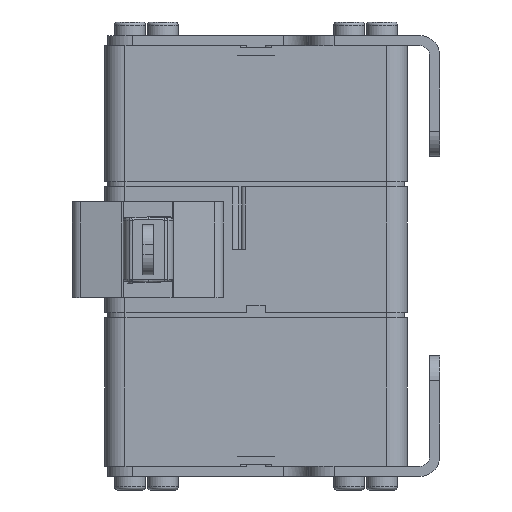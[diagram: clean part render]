
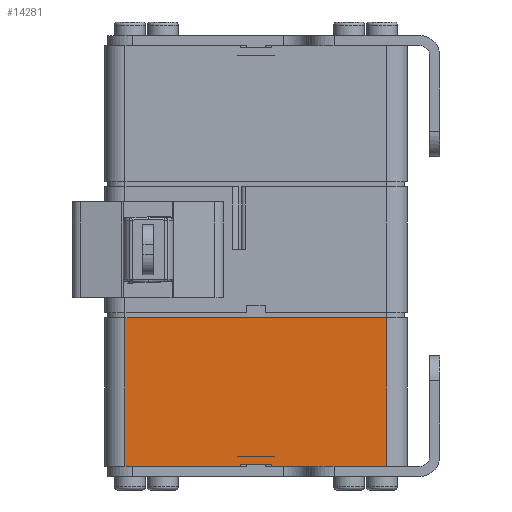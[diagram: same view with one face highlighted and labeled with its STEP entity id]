
A CAD part, front view. The second image highlights one B-rep face of the part: STEP entity #14281.
In plain terms, the highlighted planar face has unit normal (0, -1, 0).
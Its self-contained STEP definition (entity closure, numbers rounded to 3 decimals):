
#117=CARTESIAN_POINT('',(-26.,-30.,-28.));
#118=VERTEX_POINT('',#117);
#126=CARTESIAN_POINT('',(26.,-30.,-28.));
#127=VERTEX_POINT('',#126);
#128=CARTESIAN_POINT('',(26.,-30.,-28.));
#129=DIRECTION('',(-1.0,0.0,0.0));
#130=VECTOR('',#129,52.);
#131=LINE('',#128,#130);
#132=EDGE_CURVE('',#127,#118,#131,.T.);
#1722=CARTESIAN_POINT('',(3.,-30.,-57.5));
#1723=VERTEX_POINT('',#1722);
#1731=CARTESIAN_POINT('',(3.,-30.,-57.1));
#1732=VERTEX_POINT('',#1731);
#1733=CARTESIAN_POINT('',(3.,-30.,-57.5));
#1734=DIRECTION('',(0.0,0.0,1.0));
#1735=VECTOR('',#1734,0.4);
#1736=LINE('',#1733,#1735);
#1737=EDGE_CURVE('',#1723,#1732,#1736,.T.);
#1945=CARTESIAN_POINT('',(-3.,-30.,-57.1));
#1946=VERTEX_POINT('',#1945);
#1947=CARTESIAN_POINT('',(-3.,-30.,-57.1));
#1948=DIRECTION('',(1.0,0.0,0.0));
#1949=VECTOR('',#1948,6.);
#1950=LINE('',#1947,#1949);
#1951=EDGE_CURVE('',#1946,#1732,#1950,.T.);
#7041=CARTESIAN_POINT('',(7.679,-30.,-57.5));
#7042=VERTEX_POINT('',#7041);
#7050=CARTESIAN_POINT('',(3.,-30.,-57.5));
#7051=DIRECTION('',(1.0,0.0,0.0));
#7052=VECTOR('',#7051,4.679);
#7053=LINE('',#7050,#7052);
#7054=EDGE_CURVE('',#1723,#7042,#7053,.T.);
#7075=CARTESIAN_POINT('',(-3.,-30.,-57.5));
#7076=VERTEX_POINT('',#7075);
#7084=CARTESIAN_POINT('',(-26.,-30.,-57.5));
#7085=VERTEX_POINT('',#7084);
#7086=CARTESIAN_POINT('',(-26.,-30.,-57.5));
#7087=DIRECTION('',(1.0,0.0,0.0));
#7088=VECTOR('',#7087,23.);
#7089=LINE('',#7086,#7088);
#7090=EDGE_CURVE('',#7085,#7076,#7089,.T.);
#7295=CARTESIAN_POINT('',(-3.,-30.,-57.1));
#7296=DIRECTION('',(0.0,0.0,-1.0));
#7297=VECTOR('',#7296,0.4);
#7298=LINE('',#7295,#7297);
#7299=EDGE_CURVE('',#1946,#7076,#7298,.T.);
#9784=CARTESIAN_POINT('',(26.,-30.,-57.5));
#9785=VERTEX_POINT('',#9784);
#9786=CARTESIAN_POINT('',(26.,-30.,-57.5));
#9787=DIRECTION('',(-1.0,0.0,0.0));
#9788=VECTOR('',#9787,18.321);
#9789=LINE('',#9786,#9788);
#9790=EDGE_CURVE('',#9785,#7042,#9789,.T.);
#14249=CARTESIAN_POINT('',(26.,-30.,-28.));
#14250=DIRECTION('',(0.0,0.0,-1.0));
#14251=VECTOR('',#14250,29.5);
#14252=LINE('',#14249,#14251);
#14253=EDGE_CURVE('',#127,#9785,#14252,.T.);
#14260=CARTESIAN_POINT('',(-26.,-30.,-27.));
#14261=DIRECTION('',(0.0,-1.0,0.0));
#14262=DIRECTION('',(0.0,0.0,1.0));
#14263=AXIS2_PLACEMENT_3D('',#14260,#14261,#14262);
#14264=PLANE('',#14263);
#14265=ORIENTED_EDGE('',*,*,#132,.T.);
#14266=CARTESIAN_POINT('',(-26.,-30.,-28.));
#14267=DIRECTION('',(0.0,0.0,-1.0));
#14268=VECTOR('',#14267,29.5);
#14269=LINE('',#14266,#14268);
#14270=EDGE_CURVE('',#118,#7085,#14269,.T.);
#14271=ORIENTED_EDGE('',*,*,#14270,.T.);
#14272=ORIENTED_EDGE('',*,*,#7090,.T.);
#14273=ORIENTED_EDGE('',*,*,#7299,.F.);
#14274=ORIENTED_EDGE('',*,*,#1951,.T.);
#14275=ORIENTED_EDGE('',*,*,#1737,.F.);
#14276=ORIENTED_EDGE('',*,*,#7054,.T.);
#14277=ORIENTED_EDGE('',*,*,#9790,.F.);
#14278=ORIENTED_EDGE('',*,*,#14253,.F.);
#14279=EDGE_LOOP('',(#14265,#14271,#14272,#14273,#14274,#14275,#14276,#14277,#14278));
#14280=FACE_OUTER_BOUND('',#14279,.T.);
#14281=ADVANCED_FACE('',(#14280),#14264,.T.);
